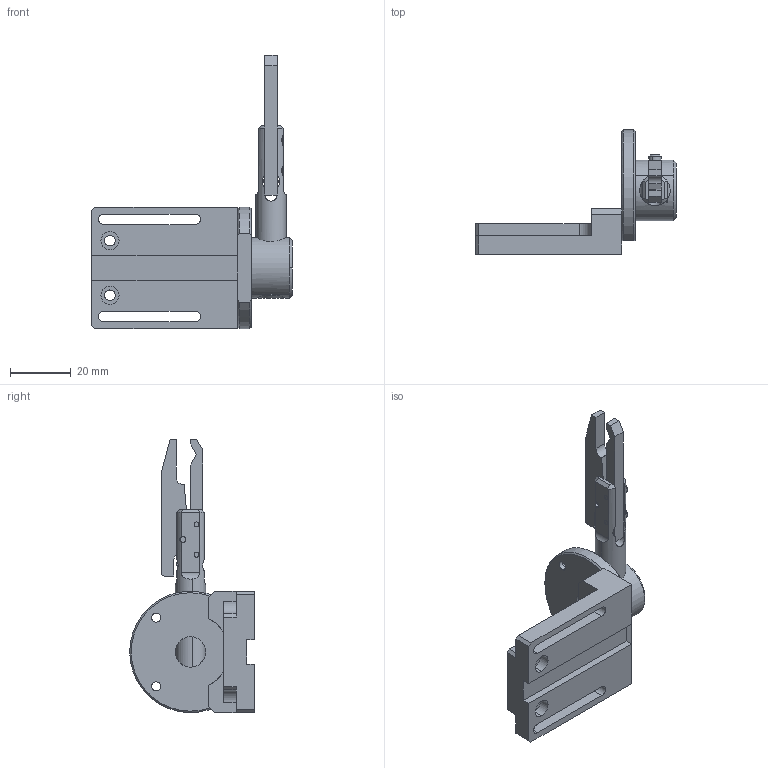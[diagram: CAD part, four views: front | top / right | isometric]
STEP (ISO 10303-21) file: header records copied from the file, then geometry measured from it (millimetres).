
FILE_DESCRIPTION (( 'STEP AP203' ), '1' );
FILE_NAME ('F290-5.STEP', '2022-12-27T00:42:54', ( '' ), ( '' ), 'SwSTEP 2.0', 'SolidWorks 2017', '' );
FILE_SCHEMA (( 'CONFIG_CONTROL_DESIGN' ));
Length unit declared in the file: millimetre
Products named in the file (5): F290-5-prt2; F290-5; F290-5-prt0; F290-5-prt3; F290-5-prt1
Assembly tree (4 placements, depth 2):
  F290-5
    F290-5-prt0
    F290-5-prt1
    F290-5-prt2
    F290-5-prt3
Bounding box: 66 x 41 x 90 mm (x, y, z)
Volume: 27202.1 mm3; surface area: 14739.6 mm2
Topology: 4 solids, 8 shells, 312 faces, 771 edges, 473 vertices
Faces by surface type: plane 161, cylinder 91, bspline 41, cone 15, torus 4
Entity records: 11510 total; most frequent: CARTESIAN_POINT 3747, ORIENTED_EDGE 1518, DIRECTION 1487, EDGE_CURVE 759, AXIS2_PLACEMENT_3D 522, VERTEX_POINT 473, VECTOR 443, LINE 443
